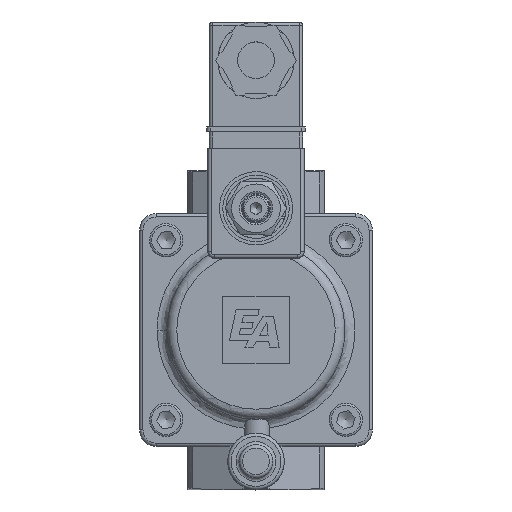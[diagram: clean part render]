
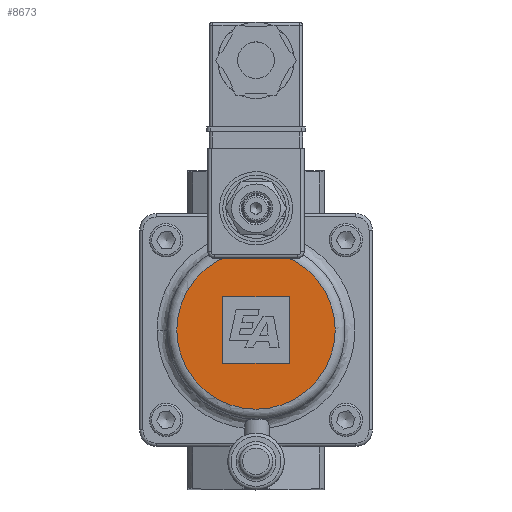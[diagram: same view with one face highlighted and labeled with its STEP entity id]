
A CAD part, top view. The second image highlights one B-rep face of the part: STEP entity #8673.
In plain terms, the highlighted planar face has unit normal (0, 0, 1).
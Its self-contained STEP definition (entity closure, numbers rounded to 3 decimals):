
#6531=CARTESIAN_POINT('',(-10.,10.,11.5));
#6532=VERTEX_POINT('',#6531);
#6539=CARTESIAN_POINT('',(-10.,-10.,11.5));
#6540=VERTEX_POINT('',#6539);
#6541=CARTESIAN_POINT('',(-10.,-10.0,11.5));
#6542=DIRECTION('',(0.0,1.0,0.0));
#6543=VECTOR('',#6542,20.);
#6544=LINE('',#6541,#6543);
#6545=EDGE_CURVE('',#6540,#6532,#6544,.T.);
#6563=CARTESIAN_POINT('',(10.,-10.,11.5));
#6564=VERTEX_POINT('',#6563);
#6565=CARTESIAN_POINT('',(10.,-10.,11.5));
#6566=DIRECTION('',(-1.0,0.0,0.0));
#6567=VECTOR('',#6566,20.0);
#6568=LINE('',#6565,#6567);
#6569=EDGE_CURVE('',#6564,#6540,#6568,.T.);
#6587=CARTESIAN_POINT('',(10.,10.,11.5));
#6588=VERTEX_POINT('',#6587);
#6589=CARTESIAN_POINT('',(10.,10.,11.5));
#6590=DIRECTION('',(0.0,-1.0,0.0));
#6591=VECTOR('',#6590,20.);
#6592=LINE('',#6589,#6591);
#6593=EDGE_CURVE('',#6588,#6564,#6592,.T.);
#6611=CARTESIAN_POINT('',(-10.,10.,11.5));
#6612=DIRECTION('',(1.0,0.0,0.0));
#6613=VECTOR('',#6612,20.0);
#6614=LINE('',#6611,#6613);
#6615=EDGE_CURVE('',#6532,#6588,#6614,.T.);
#8465=CARTESIAN_POINT('',(23.814,0.,11.5));
#8466=VERTEX_POINT('',#8465);
#8467=CARTESIAN_POINT('',(0.,0.,11.5));
#8468=DIRECTION('',(0.0,0.0,-1.0));
#8469=DIRECTION('',(-1.0,0.0,0.0));
#8470=AXIS2_PLACEMENT_3D('',#8467,#8468,#8469);
#8471=CIRCLE('',#8470,23.814);
#8472=EDGE_CURVE('',#8466,#8466,#8471,.T.);
#8659=CARTESIAN_POINT('',(0.,0.,11.5));
#8660=DIRECTION('',(0.0,0.0,-1.0));
#8661=DIRECTION('',(-1.0,0.0,0.0));
#8662=AXIS2_PLACEMENT_3D('',#8659,#8660,#8661);
#8663=PLANE('',#8662);
#8664=ORIENTED_EDGE('',*,*,#8472,.F.);
#8665=EDGE_LOOP('',(#8664));
#8666=FACE_OUTER_BOUND('',#8665,.T.);
#8667=ORIENTED_EDGE('',*,*,#6545,.T.);
#8668=ORIENTED_EDGE('',*,*,#6615,.T.);
#8669=ORIENTED_EDGE('',*,*,#6593,.T.);
#8670=ORIENTED_EDGE('',*,*,#6569,.T.);
#8671=EDGE_LOOP('',(#8667,#8668,#8669,#8670));
#8672=FACE_BOUND('',#8671,.T.);
#8673=ADVANCED_FACE('',(#8666,#8672),#8663,.F.);
